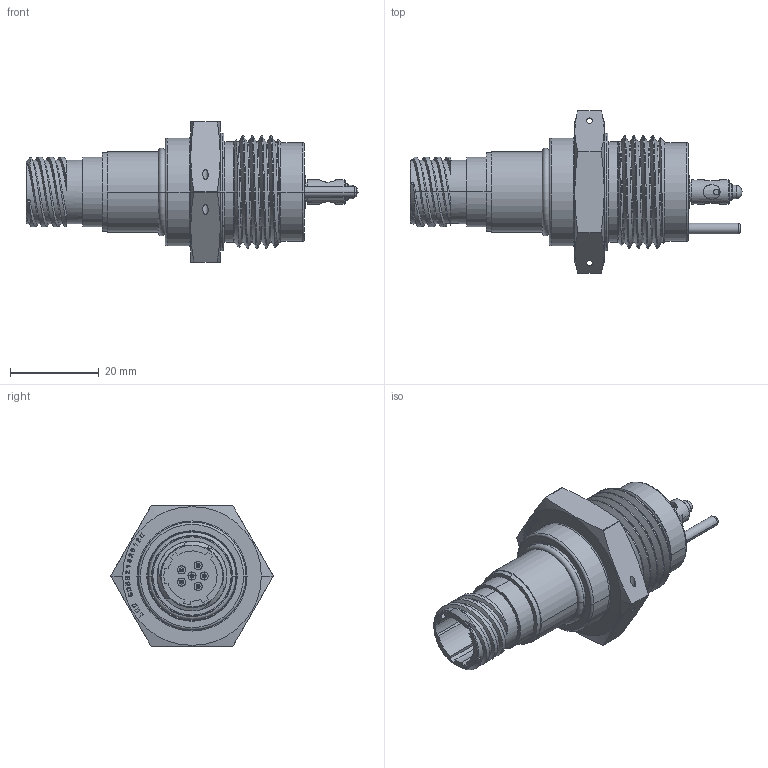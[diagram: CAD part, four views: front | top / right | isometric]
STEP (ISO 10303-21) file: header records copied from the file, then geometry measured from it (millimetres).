
FILE_DESCRIPTION(('Creo Elements/Direct Modeling STEP Export'),'2;1');
FILE_NAME('SDBB2132012E.stp','2021-03-29T16:16:35',(''),(''),'Creo Elements/Direct Modeling STEP processor for AP214 (Solid Model)','Creo Elements/Direct Modeling 18.1 03-Mar-2012 (C) Parametric Technology GmbH','');
FILE_SCHEMA(('AUTOMOTIVE_DESIGN { 1 0 10303 214 1 1 1 1 }'));
Length unit declared in the file: millimetre
Products named in the file (1): SDBB2132012E
Bounding box: 74.79 x 36.58 x 31.75 mm (x, y, z)
Volume: 21869.3 mm3; surface area: 7843.2 mm2
Topology: 1 solids, 1 shells, 816 faces, 2265 edges, 1504 vertices
Faces by surface type: plane 625, cylinder 118, cone 33, torus 30, bspline 8, sphere 2
Entity records: 27722 total; most frequent: CARTESIAN_POINT 6653, ORIENTED_EDGE 4526, DIRECTION 3633, EDGE_CURVE 2263, VECTOR 1775, LINE 1775, VERTEX_POINT 1504, AXIS2_PLACEMENT_3D 929
